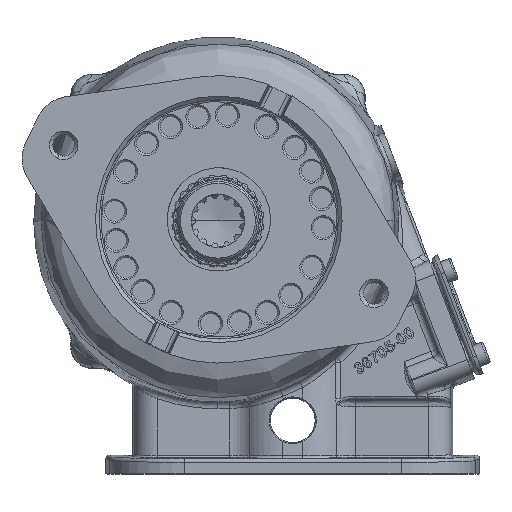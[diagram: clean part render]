
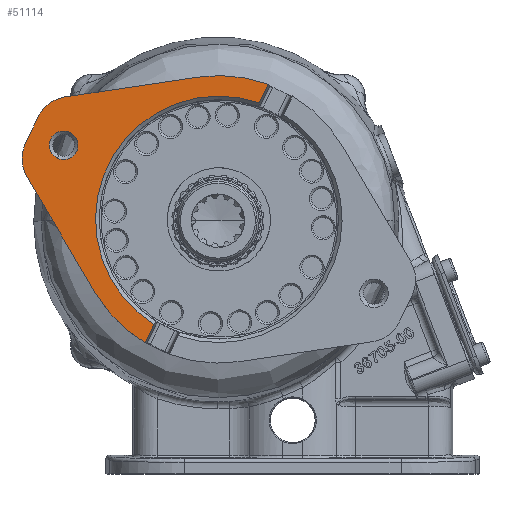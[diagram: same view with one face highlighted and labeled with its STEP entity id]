
A CAD part, top view. The second image highlights one B-rep face of the part: STEP entity #51114.
In plain terms, the highlighted planar face has unit normal (0, 0, 1).
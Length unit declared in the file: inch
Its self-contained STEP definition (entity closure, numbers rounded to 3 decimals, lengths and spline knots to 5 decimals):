
#335 = ORIENTED_EDGE ( 'NONE', *, *, #43717, .T. ) ;
#1095 = LINE ( 'NONE', #41663, #11380 ) ;
#1593 = EDGE_CURVE ( 'NONE', #20319, #35513, #79945, .T. ) ;
#2804 = DIRECTION ( 'NONE',  ( -1., 0., 0. ) ) ;
#7033 = ORIENTED_EDGE ( 'NONE', *, *, #152969, .T. ) ;
#8665 = EDGE_CURVE ( 'NONE', #158404, #36274, #10651, .T. ) ;
#10575 = ORIENTED_EDGE ( 'NONE', *, *, #31641, .T. ) ;
#10590 = DIRECTION ( 'NONE',  ( -1., 0., 0. ) ) ;
#10623 = VECTOR ( 'NONE', #161184, 39.37008 ) ;
#10651 = CIRCLE ( 'NONE', #154653, 2.061 ) ;
#11380 = VECTOR ( 'NONE', #28140, 39.37008 ) ;
#15448 = EDGE_CURVE ( 'NONE', #122091, #43354, #176503, .T. ) ;
#16308 = CARTESIAN_POINT ( 'NONE',  ( 0., 0., 0.55 ) ) ;
#19920 = DIRECTION ( 'NONE',  ( 0., 0., 1. ) ) ;
#20319 = VERTEX_POINT ( 'NONE', #82239 ) ;
#20602 = ORIENTED_EDGE ( 'NONE', *, *, #34547, .T. ) ;
#21702 = DIRECTION ( 'NONE',  ( 0., 0., -1. ) ) ;
#21802 = DIRECTION ( 'NONE',  ( 0.559, -0.829, 0. ) ) ;
#24110 = CARTESIAN_POINT ( 'NONE',  ( 0., -2.875, 0.55 ) ) ;
#27643 = DIRECTION ( 'NONE',  ( 0.559, 0.829, 0. ) ) ;
#28140 = DIRECTION ( 'NONE',  ( -1., 0., 0. ) ) ;
#28683 = CARTESIAN_POINT ( 'NONE',  ( 1.99282, -1.34426, 0.55 ) ) ;
#28905 = CARTESIAN_POINT ( 'NONE',  ( 0., 0., 0.55 ) ) ;
#31615 = EDGE_CURVE ( 'NONE', #34985, #167001, #170512, .T. ) ;
#31641 = EDGE_CURVE ( 'NONE', #35513, #34985, #162939, .T. ) ;
#34547 = EDGE_CURVE ( 'NONE', #111232, #152276, #81394, .T. ) ;
#34985 = VERTEX_POINT ( 'NONE', #28683 ) ;
#35119 = VECTOR ( 'NONE', #27643, 39.37008 ) ;
#35327 = ORIENTED_EDGE ( 'NONE', *, *, #8665, .T. ) ;
#35513 = VERTEX_POINT ( 'NONE', #141977 ) ;
#36274 = VERTEX_POINT ( 'NONE', #89512 ) ;
#38043 = AXIS2_PLACEMENT_3D ( 'NONE', #67359, #81771, #164731 ) ;
#40202 = CARTESIAN_POINT ( 'NONE',  ( -0.24, -2.875, 0.55 ) ) ;
#41663 = CARTESIAN_POINT ( 'NONE',  ( 2.59994, -0.22412, 0.55 ) ) ;
#43354 = VERTEX_POINT ( 'NONE', #129272 ) ;
#43717 = EDGE_CURVE ( 'NONE', #36274, #111232, #1095, .T. ) ;
#48218 = EDGE_CURVE ( 'NONE', #98689, #159630, #77508, .T. ) ;
#48663 = DIRECTION ( 'NONE',  ( -1., 0., 0. ) ) ;
#49556 = DIRECTION ( 'NONE',  ( 0., 0., -1. ) ) ;
#49680 = FACE_OUTER_BOUND ( 'NONE', #82469, .T. ) ;
#50541 = DIRECTION ( 'NONE',  ( -1., 0., 0. ) ) ;
#51114 = ADVANCED_FACE ( 'NONE', ( #117272, #49680 ), #90249, .F. ) ;
#56897 = AXIS2_PLACEMENT_3D ( 'NONE', #142508, #129900, #128090 ) ;
#64190 = AXIS2_PLACEMENT_3D ( 'NONE', #28905, #155992, #114484 ) ;
#67359 = CARTESIAN_POINT ( 'NONE',  ( 0., 0., 0.55 ) ) ;
#69631 = CARTESIAN_POINT ( 'NONE',  ( -2.39335, -0.22412, 0.55 ) ) ;
#72330 = CARTESIAN_POINT ( 'NONE',  ( 2.39335, -0.22412, 0.55 ) ) ;
#76817 = LINE ( 'NONE', #91208, #120453 ) ;
#77508 = CIRCLE ( 'NONE', #114892, 0.24 ) ;
#78286 = ORIENTED_EDGE ( 'NONE', *, *, #48218, .T. ) ;
#79945 = CIRCLE ( 'NONE', #56897, 0.58882 ) ;
#81394 = CIRCLE ( 'NONE', #64190, 2.40382 ) ;
#81771 = DIRECTION ( 'NONE',  ( 0., 0., 1. ) ) ;
#82239 = CARTESIAN_POINT ( 'NONE',  ( 0.25, -3.46382, 0.55 ) ) ;
#82469 = EDGE_LOOP ( 'NONE', ( #141949, #35327, #335, #20602, #88417, #135182, #7033, #163235, #10575, #108528 ) ) ;
#82722 = AXIS2_PLACEMENT_3D ( 'NONE', #133455, #21702, #50541 ) ;
#87901 = AXIS2_PLACEMENT_3D ( 'NONE', #173082, #49556, #48663 ) ;
#88417 = ORIENTED_EDGE ( 'NONE', *, *, #135399, .T. ) ;
#89359 = DIRECTION ( 'NONE',  ( -1., 0., 0. ) ) ;
#89512 = CARTESIAN_POINT ( 'NONE',  ( -2.04878, -0.22412, 0.55 ) ) ;
#90249 = PLANE ( 'NONE',  #82722 ) ;
#91187 = CARTESIAN_POINT ( 'NONE',  ( -0.73815, -3.20428, 0.55 ) ) ;
#91208 = CARTESIAN_POINT ( 'NONE',  ( -0.73815, -3.20428, 0.55 ) ) ;
#91932 = EDGE_LOOP ( 'NONE', ( #78286, #117226 ) ) ;
#95150 = CARTESIAN_POINT ( 'NONE',  ( 2.04878, -0.22412, 0.55 ) ) ;
#97240 = EDGE_CURVE ( 'NONE', #159630, #98689, #151270, .T. ) ;
#98689 = VERTEX_POINT ( 'NONE', #137321 ) ;
#101573 = CARTESIAN_POINT ( 'NONE',  ( 2.59994, -0.22412, 0.55 ) ) ;
#101945 = CARTESIAN_POINT ( 'NONE',  ( -0.25, -2.875, 0.55 ) ) ;
#103368 = DIRECTION ( 'NONE',  ( -1., 0., 0. ) ) ;
#103773 = VECTOR ( 'NONE', #103368, 39.37008 ) ;
#108528 = ORIENTED_EDGE ( 'NONE', *, *, #31615, .T. ) ;
#111232 = VERTEX_POINT ( 'NONE', #69631 ) ;
#114484 = DIRECTION ( 'NONE',  ( -1., 0., 0. ) ) ;
#114892 = AXIS2_PLACEMENT_3D ( 'NONE', #24110, #173841, #10590 ) ;
#117226 = ORIENTED_EDGE ( 'NONE', *, *, #97240, .T. ) ;
#117272 = FACE_BOUND ( 'NONE', #91932, .T. ) ;
#120453 = VECTOR ( 'NONE', #21802, 39.37008 ) ;
#122091 = VERTEX_POINT ( 'NONE', #91187 ) ;
#126281 = DIRECTION ( 'NONE',  ( 0., 0., -1. ) ) ;
#128090 = DIRECTION ( 'NONE',  ( -1., 0., 0. ) ) ;
#129272 = CARTESIAN_POINT ( 'NONE',  ( -0.25, -3.46382, 0.55 ) ) ;
#129900 = DIRECTION ( 'NONE',  ( 0., 0., 1. ) ) ;
#130420 = AXIS2_PLACEMENT_3D ( 'NONE', #101945, #19920, #89359 ) ;
#133455 = CARTESIAN_POINT ( 'NONE',  ( -2.54784, 3.52445, 0.55 ) ) ;
#135182 = ORIENTED_EDGE ( 'NONE', *, *, #15448, .T. ) ;
#135399 = EDGE_CURVE ( 'NONE', #152276, #122091, #76817, .T. ) ;
#137321 = CARTESIAN_POINT ( 'NONE',  ( 0.24, -2.875, 0.55 ) ) ;
#141949 = ORIENTED_EDGE ( 'NONE', *, *, #166600, .T. ) ;
#141977 = CARTESIAN_POINT ( 'NONE',  ( 0.73815, -3.20428, 0.55 ) ) ;
#142062 = CARTESIAN_POINT ( 'NONE',  ( -1.99282, -1.34426, 0.55 ) ) ;
#142508 = CARTESIAN_POINT ( 'NONE',  ( 0.25, -2.875, 0.55 ) ) ;
#143042 = LINE ( 'NONE', #101573, #103773 ) ;
#151144 = CARTESIAN_POINT ( 'NONE',  ( 1.99282, -1.34426, 0.55 ) ) ;
#151270 = CIRCLE ( 'NONE', #87901, 0.24 ) ;
#152276 = VERTEX_POINT ( 'NONE', #142062 ) ;
#152969 = EDGE_CURVE ( 'NONE', #43354, #20319, #160286, .T. ) ;
#154653 = AXIS2_PLACEMENT_3D ( 'NONE', #16308, #126281, #2804 ) ;
#155992 = DIRECTION ( 'NONE',  ( 0., 0., 1. ) ) ;
#158404 = VERTEX_POINT ( 'NONE', #95150 ) ;
#159630 = VERTEX_POINT ( 'NONE', #40202 ) ;
#160286 = LINE ( 'NONE', #162938, #10623 ) ;
#161184 = DIRECTION ( 'NONE',  ( 1., 0., 0. ) ) ;
#162938 = CARTESIAN_POINT ( 'NONE',  ( 0.25, -3.46382, 0.55 ) ) ;
#162939 = LINE ( 'NONE', #151144, #35119 ) ;
#163235 = ORIENTED_EDGE ( 'NONE', *, *, #1593, .T. ) ;
#164731 = DIRECTION ( 'NONE',  ( -1., 0., 0. ) ) ;
#166600 = EDGE_CURVE ( 'NONE', #167001, #158404, #143042, .T. ) ;
#167001 = VERTEX_POINT ( 'NONE', #72330 ) ;
#170512 = CIRCLE ( 'NONE', #38043, 2.40382 ) ;
#173082 = CARTESIAN_POINT ( 'NONE',  ( 0., -2.875, 0.55 ) ) ;
#173841 = DIRECTION ( 'NONE',  ( 0., 0., -1. ) ) ;
#176503 = CIRCLE ( 'NONE', #130420, 0.58882 ) ;
